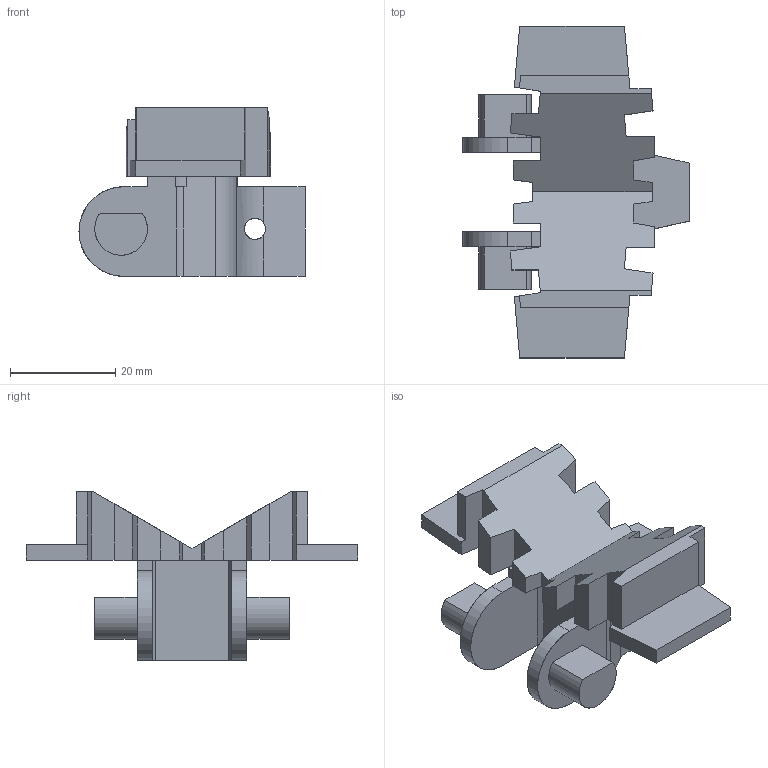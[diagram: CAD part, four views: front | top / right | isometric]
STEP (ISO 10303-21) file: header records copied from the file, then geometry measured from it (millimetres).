
FILE_DESCRIPTION (( 'STEP AP214' ), '1' );
FILE_NAME ('FSCV-5A.STEP', '2011-09-28T08:03:22', ( '.' ), ( '' ), 'SwSTEP 2.0', 'SolidWorks 2010', '' );
FILE_SCHEMA (( 'AUTOMOTIVE_DESIGN' ));
Length unit declared in the file: millimetre
Products named in the file (1): FSCV-5A
Bounding box: 42.9 x 63 x 32 mm (x, y, z)
Surface area: 8784.7 mm2 (no closed solid volume)
Topology: 0 solids, 98 shells, 100 faces, 557 edges, 554 vertices
Faces by surface type: plane 83, cylinder 17
Entity records: 6698 total; most frequent: CARTESIAN_POINT 2575, DIRECTION 749, ORIENTED_EDGE 560, EDGE_CURVE 557, VERTEX_POINT 554, LINE 487, VECTOR 487, AXIS2_PLACEMENT_3D 131
